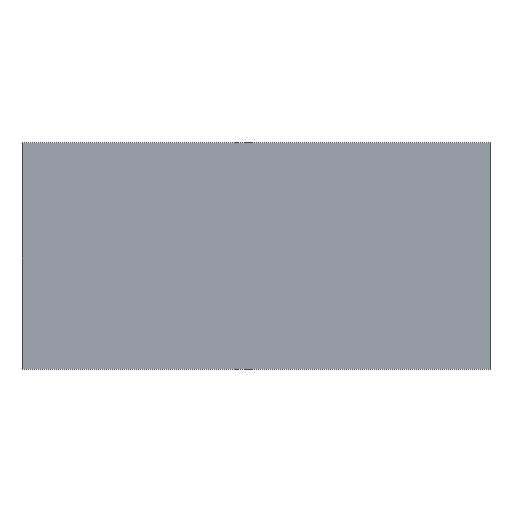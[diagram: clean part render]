
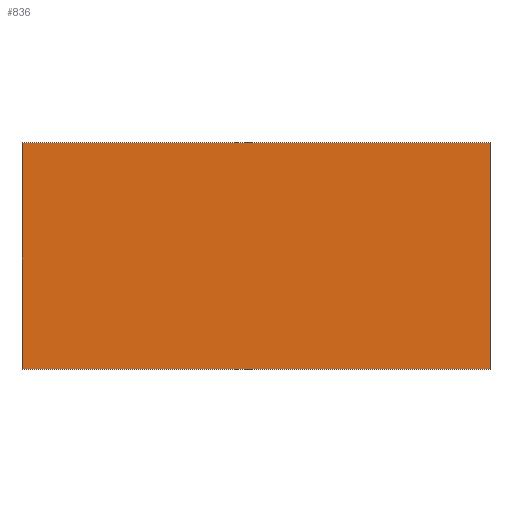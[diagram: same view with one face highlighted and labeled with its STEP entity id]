
A CAD part, top view. The second image highlights one B-rep face of the part: STEP entity #836.
In plain terms, the highlighted planar face has unit normal (0, 0, 1).
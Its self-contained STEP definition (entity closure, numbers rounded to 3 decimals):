
#295=B_SPLINE_CURVE_WITH_KNOTS('',1,(#11978,#11979),.UNSPECIFIED.,.F.,.F.,
(2,2),(0.,1008.578),.UNSPECIFIED.);
#299=B_SPLINE_CURVE_WITH_KNOTS('',1,(#11986,#11987),.UNSPECIFIED.,.F.,.F.,
(2,2),(1008.578,2563.203),.UNSPECIFIED.);
#302=B_SPLINE_CURVE_WITH_KNOTS('',1,(#11992,#11993),.UNSPECIFIED.,.F.,.F.,
(2,2),(2563.203,3571.781),.UNSPECIFIED.);
#304=B_SPLINE_CURVE_WITH_KNOTS('',1,(#11996,#11997),.UNSPECIFIED.,.F.,.F.,
(2,2),(3571.781,5126.405),.UNSPECIFIED.);
#836=ADVANCED_FACE('',(#1314),#6968,.T.);
#1314=FACE_OUTER_BOUND('',#1820,.T.);
#1820=EDGE_LOOP('',(#3185,#3186,#3187,#3188));
#3185=ORIENTED_EDGE('',*,*,#4811,.T.);
#3186=ORIENTED_EDGE('',*,*,#4815,.T.);
#3187=ORIENTED_EDGE('',*,*,#4818,.T.);
#3188=ORIENTED_EDGE('',*,*,#4820,.T.);
#4811=EDGE_CURVE('',#6344,#6343,#295,.T.);
#4815=EDGE_CURVE('',#6343,#6346,#299,.T.);
#4818=EDGE_CURVE('',#6346,#6348,#302,.T.);
#4820=EDGE_CURVE('',#6348,#6344,#304,.T.);
#6343=VERTEX_POINT('',#11968);
#6344=VERTEX_POINT('',#11969);
#6346=VERTEX_POINT('',#11971);
#6348=VERTEX_POINT('',#11973);
#6968=PLANE('',#7466);
#7466=AXIS2_PLACEMENT_3D('',#11965,#7880,$);
#7880=DIRECTION('',(0.,0.,1.));
#11965=CARTESIAN_POINT('',(-649.928,315.986,754.687));
#11968=CARTESIAN_POINT('',(-649.928,-314.014,754.687));
#11969=CARTESIAN_POINT('',(-649.928,315.986,754.687));
#11971=CARTESIAN_POINT('',(650.072,-314.014,754.687));
#11973=CARTESIAN_POINT('',(650.072,315.986,754.687));
#11978=CARTESIAN_POINT('',(-649.928,315.986,754.687));
#11979=CARTESIAN_POINT('',(-649.928,-314.014,754.687));
#11986=CARTESIAN_POINT('',(-649.928,-314.014,754.687));
#11987=CARTESIAN_POINT('',(650.072,-314.014,754.687));
#11992=CARTESIAN_POINT('',(650.072,-314.014,754.687));
#11993=CARTESIAN_POINT('',(650.072,315.986,754.687));
#11996=CARTESIAN_POINT('',(650.072,315.986,754.687));
#11997=CARTESIAN_POINT('',(-649.928,315.986,754.687));
